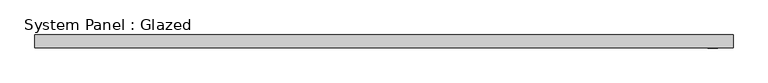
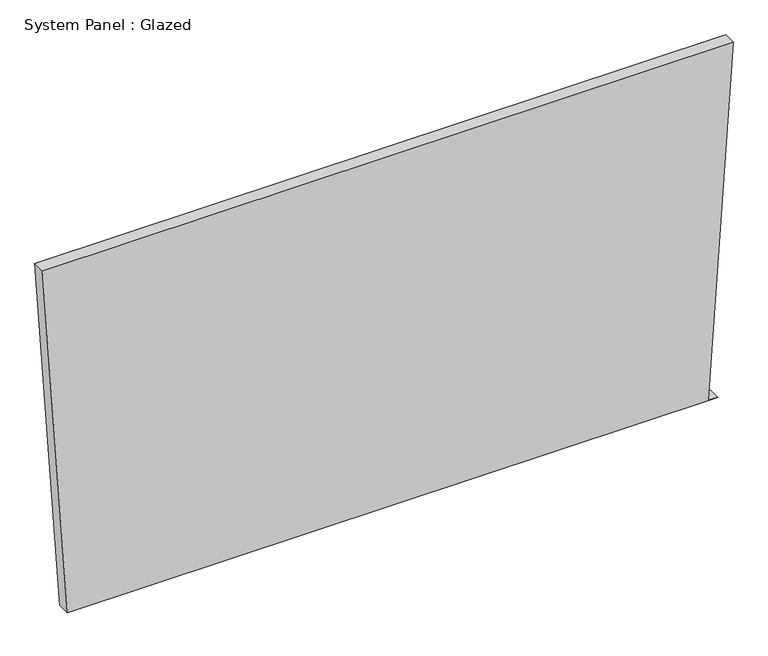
"""IFC4 building model written with IfcOpenShell, lengths in millimetres: plate geometry, System Panel : Glazed."""

from ifc_helpers import new_model, si_unit, frame, origin, place, context, project, spatial, polyline, outline, extrude, source, transform, mapped, element, save


def system_panel_glazed_8beea25a(model_context):
    return source(origin(), model_context, "Body", "SweptSolid", [
        extrude(outline(polyline([(0.0, -628.6967649), (0.0002254, 647.7898786), (1.2797209, 628.7828959), (726.8132461, 677.6237289), (726.8130068, -677.6237289), (0.0, -628.6967649)])), frame((0.0, 19.05, 0.0), z_axis=(0.0, 1.0, 0.0), x_axis=(0.0, 0.0, 1.0)), (0.0, 0.0, 1.0), 25.4),
    ])


if __name__ == "__main__":
    model = new_model("IFC4")
    model_context = context("Model", 3, world=origin())
    ifc_project = project(units=[si_unit("LENGTHUNIT", "METRE", prefix="MILLI")], contexts=[model_context])
    site = spatial("IfcSite", under=ifc_project)
    building = spatial("IfcBuilding", under=site)
    placement = place(None, origin())
    system_panel_glazed_shape = system_panel_glazed_8beea25a(model_context)
    element("IfcPlate", 1, ObjectType="System Panel : Glazed", at=placement, inside=building, context=model_context, shape_type="MappedRepresentation", body=[
        mapped(system_panel_glazed_shape, transform((0.0, 0.0, 0.0), x_axis=(1.0, 0.0, 0.0), y_axis=(0.0, 1.0, 0.0), z_axis=(0.0, 0.0, 1.0))),
    ])
    save(model, "model.ifc")
